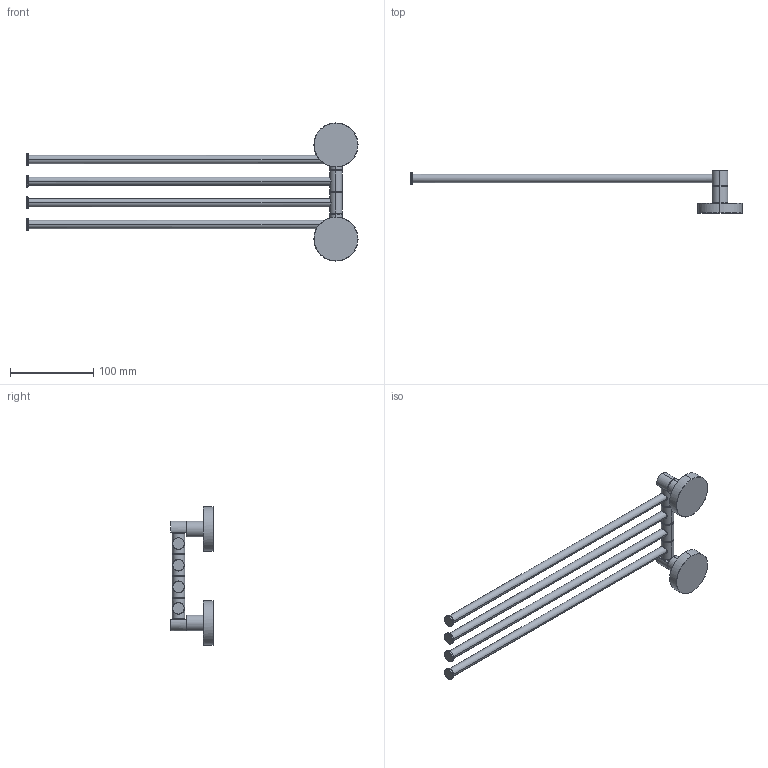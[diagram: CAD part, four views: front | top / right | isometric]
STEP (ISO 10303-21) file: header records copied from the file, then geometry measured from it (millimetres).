
FILE_DESCRIPTION(('THIS FILE CONTAINS SOME STEP INSTANCES'),'1');
FILE_NAME('har_025.stp','2015-11-24T10:16:14',('UNDEFINED'),('UNDEFINED'),'T-FLEX CAD STEP converter','T-FLEX CAD','');
FILE_SCHEMA(('CONFIG_CONTROL_DESIGN'));
Length unit declared in the file: metre
Products named in the file (6): 3D 鐨飹懤艜_20; 3D 鐨飹懤艜_28; 3D 鐨飹懤艜_24; 3D 鐨飹懤艜_1; 3D 鐨飹懤艜_34; 3D 鐨飹懤艜_16
Bounding box: 399 x 51 x 166 mm (x, y, z)
Volume: 206535.6 mm3; surface area: 70202.1 mm2
Topology: 6 solids, 6 shells, 175 faces, 365 edges, 217 vertices
Faces by surface type: cone 72, cylinder 50, plane 45, bspline 8
Entity records: 8760 total; most frequent: CARTESIAN_POINT 5493, ORIENTED_EDGE 730, DIRECTION 548, EDGE_CURVE 365, VERTEX_POINT 217, AXIS2_PLACEMENT_3D 201, EDGE_LOOP 190, ADVANCED_FACE 175
